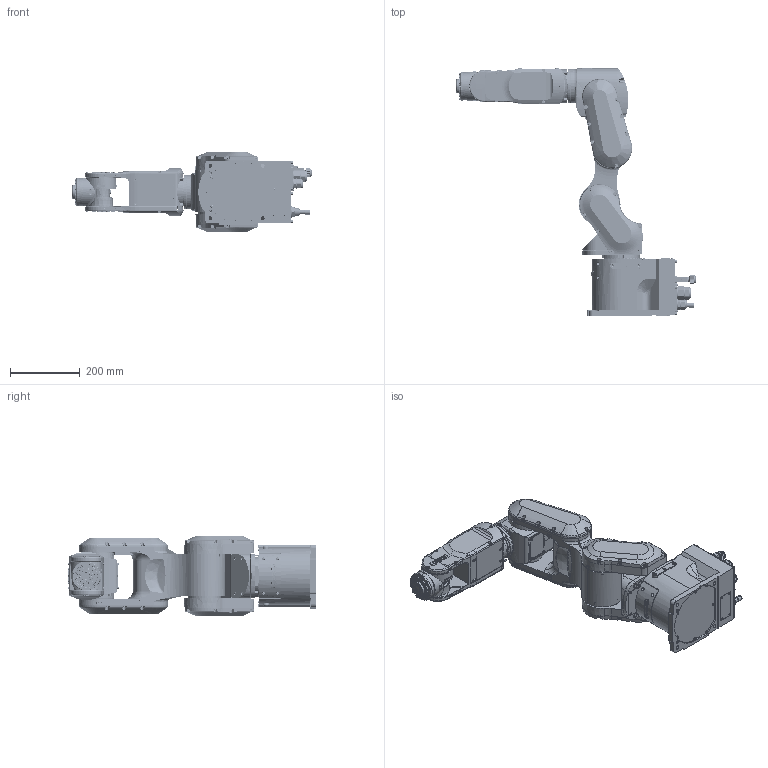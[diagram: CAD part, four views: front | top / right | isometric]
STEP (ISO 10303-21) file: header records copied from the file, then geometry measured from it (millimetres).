
FILE_DESCRIPTION (( 'STEP AP214' ), '1' );
FILE_NAME ('CX7-x701PN.STEP', '2026-07-24T18:22:00', ( '' ), ( '' ), 'SwSTEP 2.0', 'SolidWorks 2020', '' );
FILE_SCHEMA (( 'AUTOMOTIVE_DESIGN' ));
Length unit declared in the file: millimetre
Products named in the file (8): CX7-A701P-NIW_J6; CX7-A701P-NIW_BASE; CX7-A701P-NIW_J1; CX7-A701P-NIW_J2; CX7-A701P-NIW_J3; CX7-x701PN; CX7-A701P-NIW_J4; CX7-A701P-NIW_J5
Assembly tree (7 placements, depth 2):
  CX7-x701PN
    CX7-A701P-NIW_BASE
    CX7-A701P-NIW_J1
    CX7-A701P-NIW_J2
    CX7-A701P-NIW_J3
    CX7-A701P-NIW_J4
    CX7-A701P-NIW_J5
    CX7-A701P-NIW_J6
Bounding box: 687 x 712 x 228 mm (x, y, z)
Volume: 7845962.8 mm3; surface area: 1101649.7 mm2
Topology: 4 solids, 8 shells, 4083 faces, 10160 edges, 6330 vertices
Faces by surface type: plane 1508, cylinder 1322, cone 835, torus 339, bspline 50, sphere 29
Entity records: 186954 total; most frequent: CARTESIAN_POINT 81606, ORIENTED_EDGE 20008, DIRECTION 13437, EDGE_CURVE 10010, B_SPLINE_CURVE_WITH_KNOTS 6489, VERTEX_POINT 6330, AXIS2_PLACEMENT_3D 5894, EDGE_LOOP 4493
